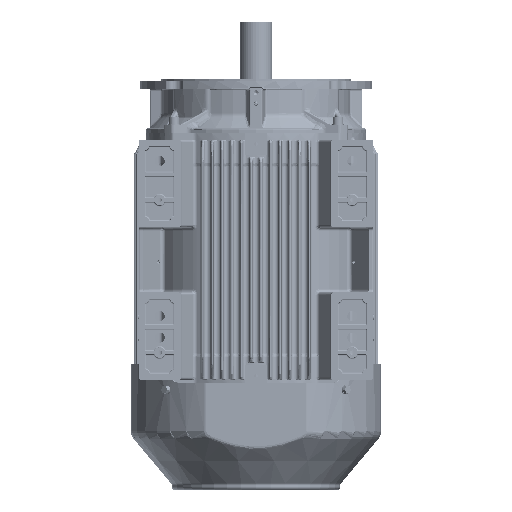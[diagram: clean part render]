
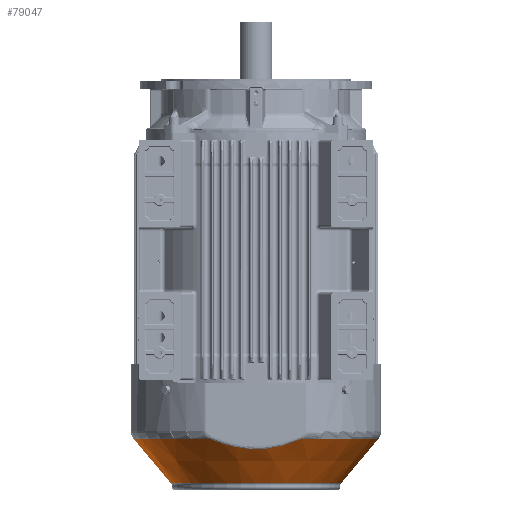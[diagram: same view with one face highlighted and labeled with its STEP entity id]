
A CAD part, front view. The second image highlights one B-rep face of the part: STEP entity #79047.
In plain terms, the highlighted conical face has half-angle 40 degrees and reference radius 201.872 mm.
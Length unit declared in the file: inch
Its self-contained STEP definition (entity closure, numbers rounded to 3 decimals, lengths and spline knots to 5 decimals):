
#250 = ORIENTED_EDGE ( 'NONE', *, *, #299476, .F. ) ;
#30623 = CARTESIAN_POINT ( 'NONE',  ( 0.87754, -10.61553, -17.64235 ) ) ;
#32527 = CARTESIAN_POINT ( 'NONE',  ( -0.37184, -10.61655, -17.68405 ) ) ;
#37052 = LINE ( 'NONE', #422484, #533522 ) ;
#38261 = CARTESIAN_POINT ( 'NONE',  ( 1.06365, -10.61505, -17.62273 ) ) ;
#42061 = CARTESIAN_POINT ( 'NONE',  ( -4.13567, -10.59593, -16.7823 ) ) ;
#53626 = CARTESIAN_POINT ( 'NONE',  ( -3.96327, -10.59747, -16.85403 ) ) ;
#54970 = DIRECTION ( 'NONE',  ( 0., 0., 1. ) ) ;
#70912 = CARTESIAN_POINT ( 'NONE',  ( 11.43627, 0., -16.70726 ) ) ;
#74951 = CARTESIAN_POINT ( 'NONE',  ( 2.56484, -10.60825, -17.33659 ) ) ;
#77838 = CIRCLE ( 'NONE', #181848, 11.43627 ) ;
#79047 = ADVANCED_FACE ( 'NONE', ( #264310 ), #133280, .T. ) ;
#83583 = EDGE_CURVE ( 'NONE', #425971, #427331, #77838, .T. ) ;
#84850 = AXIS2_PLACEMENT_3D ( 'NONE', #318863, #54970, #141693 ) ;
#103284 = DIRECTION ( 'NONE',  ( 0., 0., 1. ) ) ;
#107477 = CARTESIAN_POINT ( 'NONE',  ( -4.30675, -10.59435, -16.70726 ) ) ;
#127026 = ORIENTED_EDGE ( 'NONE', *, *, #454426, .T. ) ;
#130767 = CARTESIAN_POINT ( 'NONE',  ( -2.37036, -10.60933, -17.38276 ) ) ;
#133280 = CONICAL_SURFACE ( 'NONE', #84850, 7.9477, 0.698 ) ;
#140517 = VERTEX_POINT ( 'NONE', #107477 ) ;
#141693 = DIRECTION ( 'NONE',  ( 1., 0., 0. ) ) ;
#142237 = CARTESIAN_POINT ( 'NONE',  ( -4.30675, -10.59435, -16.70726 ) ) ;
#145197 = EDGE_CURVE ( 'NONE', #193261, #140517, #369602, .T. ) ;
#158743 = DIRECTION ( 'NONE',  ( 0., 0., 1. ) ) ;
#160572 = DIRECTION ( 'NONE',  ( 0.643, 0., 0.766 ) ) ;
#163595 = CARTESIAN_POINT ( 'NONE',  ( 4.30675, -10.59435, -16.70726 ) ) ;
#167219 = DIRECTION ( 'NONE',  ( 1., 0., 0. ) ) ;
#169265 = CARTESIAN_POINT ( 'NONE',  ( 3.6194, -10.60048, -16.99322 ) ) ;
#171148 = CARTESIAN_POINT ( 'NONE',  ( 1.01722, -10.61518, -17.62797 ) ) ;
#173153 = EDGE_LOOP ( 'NONE', ( #250, #127026, #523850, #412748, #382883, #428154 ) ) ;
#180784 = CIRCLE ( 'NONE', #201445, 7.9477 ) ;
#181848 = AXIS2_PLACEMENT_3D ( 'NONE', #249235, #158743, #204856 ) ;
#183463 = CARTESIAN_POINT ( 'NONE',  ( -11.43627, 0., -16.70726 ) ) ;
#193261 = VERTEX_POINT ( 'NONE', #183463 ) ;
#201445 = AXIS2_PLACEMENT_3D ( 'NONE', #413285, #103284, #411372 ) ;
#204856 = DIRECTION ( 'NONE',  ( 1., 0., 0. ) ) ;
#213507 = CARTESIAN_POINT ( 'NONE',  ( 2.91933, -10.60585, -17.23293 ) ) ;
#229235 = VERTEX_POINT ( 'NONE', #452775 ) ;
#229366 = VECTOR ( 'NONE', #504338, 39.37008 ) ;
#249235 = CARTESIAN_POINT ( 'NONE',  ( 0., 0., -16.70726 ) ) ;
#252185 = CARTESIAN_POINT ( 'NONE',  ( 0.73791, -10.61584, -17.65498 ) ) ;
#259837 = CARTESIAN_POINT ( 'NONE',  ( -1.46749, -10.61388, -17.57434 ) ) ;
#263633 = CARTESIAN_POINT ( 'NONE',  ( -3.44013, -10.60186, -17.0547 ) ) ;
#264310 = FACE_OUTER_BOUND ( 'NONE', #173153, .T. ) ;
#299476 = EDGE_CURVE ( 'NONE', #414545, #193261, #318946, .T. ) ;
#302156 = CARTESIAN_POINT ( 'NONE',  ( 1.84553, -10.61224, -17.50637 ) ) ;
#305953 = CARTESIAN_POINT ( 'NONE',  ( -1.82983, -10.61231, -17.5095 ) ) ;
#318863 = CARTESIAN_POINT ( 'NONE',  ( 0., 0., -20.86478 ) ) ;
#318946 = LINE ( 'NONE', #556248, #229366 ) ;
#369602 = CIRCLE ( 'NONE', #556344, 11.43627 ) ;
#382883 = ORIENTED_EDGE ( 'NONE', *, *, #409234, .T. ) ;
#383081 = CARTESIAN_POINT ( 'NONE',  ( 0.64497, -10.61601, -17.66197 ) ) ;
#385002 = CARTESIAN_POINT ( 'NONE',  ( 1.48071, -10.61383, -17.57248 ) ) ;
#388819 = CARTESIAN_POINT ( 'NONE',  ( 3.96498, -10.59751, -16.85717 ) ) ;
#390558 = CARTESIAN_POINT ( 'NONE',  ( 0., 0., -16.70726 ) ) ;
#409234 = EDGE_CURVE ( 'NONE', #425971, #140517, #445775, .T. ) ;
#411372 = DIRECTION ( 'NONE',  ( 1., 0., 0. ) ) ;
#412748 = ORIENTED_EDGE ( 'NONE', *, *, #83583, .F. ) ;
#413285 = CARTESIAN_POINT ( 'NONE',  ( 0., 0., -20.86478 ) ) ;
#414545 = VERTEX_POINT ( 'NONE', #435852 ) ;
#422484 = CARTESIAN_POINT ( 'NONE',  ( 7.9477, 0., -20.86478 ) ) ;
#425971 = VERTEX_POINT ( 'NONE', #510928 ) ;
#427331 = VERTEX_POINT ( 'NONE', #70912 ) ;
#428154 = ORIENTED_EDGE ( 'NONE', *, *, #145197, .F. ) ;
#435852 = CARTESIAN_POINT ( 'NONE',  ( -7.9477, 0., -20.86478 ) ) ;
#445775 = B_SPLINE_CURVE_WITH_KNOTS ( 'NONE', 3,
 ( #163595, #388819, #169265, #213507, #74951, #302156, #385002, #38261, #171148, #514250, #30623, #252185, #383081, #471716, #560490, #32527, #448484, #259837, #305953, #130767, #450406, #525640, #492783, #527529, #479303, #263633, #481204, #53626, #42061, #142237 ),
 .UNSPECIFIED., .F., .F.,
 ( 4, 2, 2, 2, 2, 2, 2, 2, 2, 2, 2, 2, 2, 2, 4 ),
 ( 0., 0.02814, 0.05628, 0.08442, 0.08794, 0.09146, 0.09849, 0.11256, 0.1407, 0.16884, 0.18291, 0.18995, 0.19698, 0.21105, 0.22512 ),
 .UNSPECIFIED. ) ;
#448484 = CARTESIAN_POINT ( 'NONE',  ( -0.73849, -10.616, -17.66162 ) ) ;
#450406 = CARTESIAN_POINT ( 'NONE',  ( -2.55003, -10.60823, -17.3356 ) ) ;
#452775 = CARTESIAN_POINT ( 'NONE',  ( 7.9477, 0., -20.86478 ) ) ;
#454426 = EDGE_CURVE ( 'NONE', #414545, #229235, #180784, .T. ) ;
#471716 = CARTESIAN_POINT ( 'NONE',  ( 0.36657, -10.61642, -17.67872 ) ) ;
#477216 = DIRECTION ( 'NONE',  ( 0., 0., 1. ) ) ;
#479303 = CARTESIAN_POINT ( 'NONE',  ( -3.17508, -10.60389, -17.14531 ) ) ;
#481204 = CARTESIAN_POINT ( 'NONE',  ( -3.61553, -10.60043, -16.99022 ) ) ;
#492783 = CARTESIAN_POINT ( 'NONE',  ( -2.90831, -10.60582, -17.23075 ) ) ;
#503200 = EDGE_CURVE ( 'NONE', #229235, #427331, #37052, .T. ) ;
#504338 = DIRECTION ( 'NONE',  ( -0.643, 0., 0.766 ) ) ;
#510928 = CARTESIAN_POINT ( 'NONE',  ( 4.30675, -10.59435, -16.70726 ) ) ;
#514250 = CARTESIAN_POINT ( 'NONE',  ( 0.92417, -10.61542, -17.63779 ) ) ;
#523850 = ORIENTED_EDGE ( 'NONE', *, *, #503200, .T. ) ;
#525640 = CARTESIAN_POINT ( 'NONE',  ( -2.81884, -10.60644, -17.25784 ) ) ;
#527529 = CARTESIAN_POINT ( 'NONE',  ( -3.08639, -10.60455, -17.1745 ) ) ;
#533522 = VECTOR ( 'NONE', #160572, 39.37008 ) ;
#556248 = CARTESIAN_POINT ( 'NONE',  ( -7.9477, 0., -20.86478 ) ) ;
#556344 = AXIS2_PLACEMENT_3D ( 'NONE', #390558, #477216, #167219 ) ;
#560490 = CARTESIAN_POINT ( 'NONE',  ( 0.18154, -10.61655, -17.68423 ) ) ;
